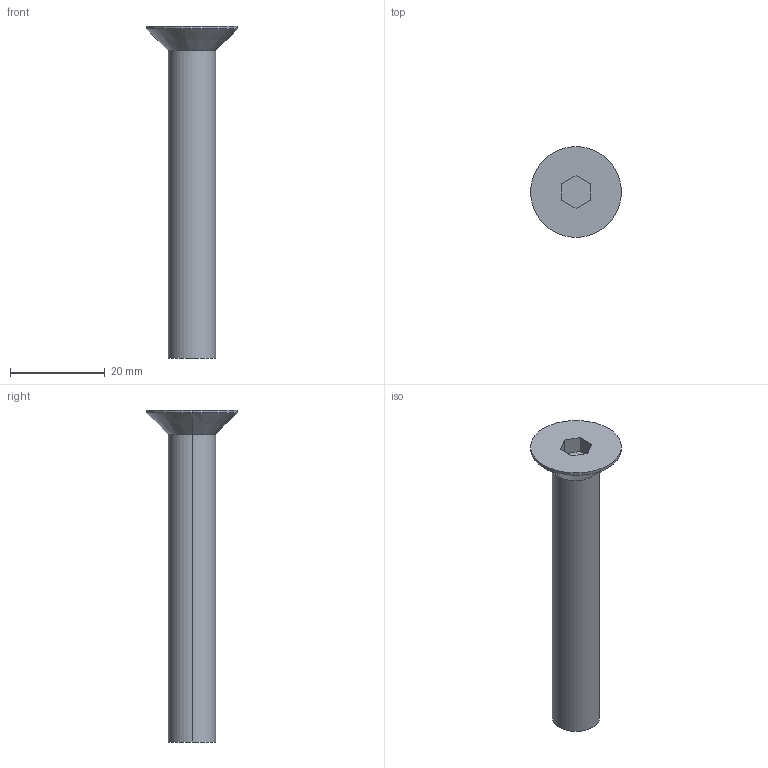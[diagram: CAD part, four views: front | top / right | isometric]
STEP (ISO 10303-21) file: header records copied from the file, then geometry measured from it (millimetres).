
FILE_DESCRIPTION (( 'STEP AP214' ), '1' );
FILE_NAME ('COUNTERSHUNK_HEAD_BOLT_M10(L=065).STEP', '2021-09-18T10:23:20', ( '' ), ( '' ), 'SwSTEP 2.0', 'SolidWorks 2018', '' );
FILE_SCHEMA (( 'AUTOMOTIVE_DESIGN' ));
Length unit declared in the file: millimetre
Products named in the file (1): COUNTERSHUNK_HEAD_BOLT_M10(L=065)
Bounding box: 19.22 x 19.22 x 70.22 mm (x, y, z)
Volume: 5968.3 mm3; surface area: 2821.6 mm2
Topology: 1 solids, 1 shells, 15 faces, 32 edges, 20 vertices
Faces by surface type: plane 9, cylinder 4, cone 2
Entity records: 436 total; most frequent: DIRECTION 72, CARTESIAN_POINT 68, ORIENTED_EDGE 64, EDGE_CURVE 32, VECTOR 24, AXIS2_PLACEMENT_3D 24, LINE 24, VERTEX_POINT 20
